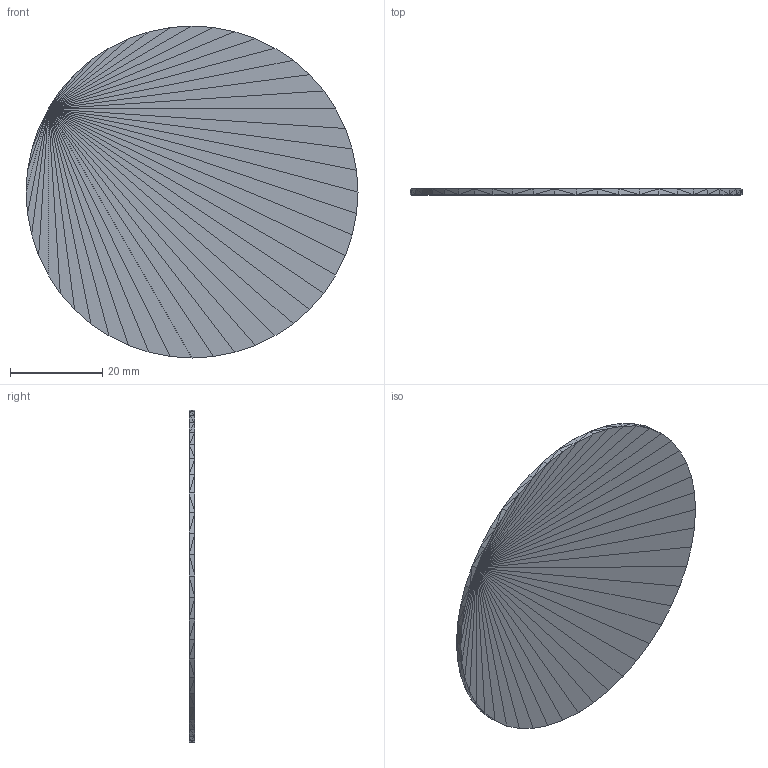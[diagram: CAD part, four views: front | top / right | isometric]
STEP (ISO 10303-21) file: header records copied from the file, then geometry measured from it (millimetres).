
FILE_DESCRIPTION(('Open CASCADE Model'),'2;1');
FILE_NAME('Open CASCADE Shape Model','2026-07-28T00:00:00+00:00',( 'Author'),('Open CASCADE'),'Open CASCADE STEP processor 7.8', 'build123d','Unknown');
FILE_SCHEMA(('AUTOMOTIVE_DESIGN { 1 0 10303 214 1 1 1 1 }'));
Length unit declared in the file: millimetre
Products named in the file (1): SOLID
Bounding box: 72 x 1.3 x 72 mm (x, y, z)
Volume: 5277.9 mm3; surface area: 8413.6 mm2
Topology: 1 solids, 1 shells, 188 faces, 282 edges, 96 vertices
Faces by surface type: plane 188
Entity records: 7072 total; most frequent: CARTESIAN_POINT 1413, DIRECTION 942, ORIENTED_EDGE 564, LINE 564, VECTOR 564, PCURVE 564, DEFINITIONAL_REPRESENTATION 564, EDGE_CURVE 282
